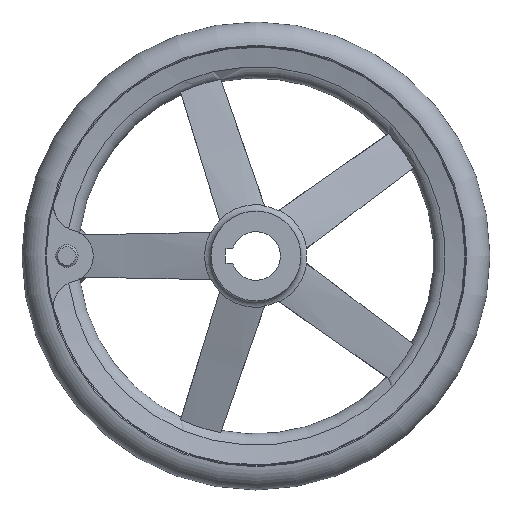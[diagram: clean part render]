
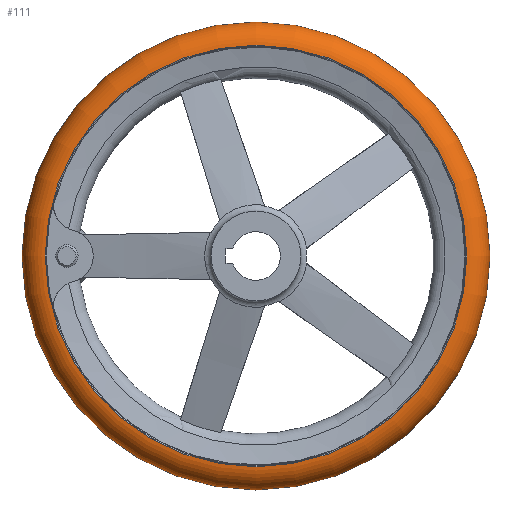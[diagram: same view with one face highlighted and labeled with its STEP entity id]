
A CAD part, left-side view. The second image highlights one B-rep face of the part: STEP entity #111.
In plain terms, the highlighted toroidal (fillet/blend) face has major radius 111.988 mm and minor radius 13.012 mm.
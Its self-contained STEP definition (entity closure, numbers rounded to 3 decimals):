
#111 = ADVANCED_FACE( '', ( #231, #232, #233 ), #234, .T. );
#231 = FACE_BOUND( '', #381, .T. );
#232 = FACE_OUTER_BOUND( '', #382, .T. );
#233 = FACE_OUTER_BOUND( '', #383, .T. );
#234 = TOROIDAL_SURFACE( '', #384, 111.988, 13.012 );
#381 = VERTEX_LOOP( '', #757 );
#382 = EDGE_LOOP( '', ( #758 ) );
#383 = EDGE_LOOP( '', ( #759 ) );
#384 = AXIS2_PLACEMENT_3D( '', #760, #761, #762 );
#757 = VERTEX_POINT( '', #1083 );
#758 = ORIENTED_EDGE( '', *, *, #1082, .T. );
#759 = ORIENTED_EDGE( '', *, *, #1076, .F. );
#760 = CARTESIAN_POINT( '', ( 37., 0., 0. ) );
#761 = DIRECTION( '', ( 1., 0., 0. ) );
#762 = DIRECTION( '', ( 0., 1., 0. ) );
#1076 = EDGE_CURVE( '', #1323, #1323, #1324, .T. );
#1082 = EDGE_CURVE( '', #1333, #1333, #1334, .T. );
#1083 = CARTESIAN_POINT( '', ( 37., 125., 0. ) );
#1323 = VERTEX_POINT( '', #2101 );
#1324 = CIRCLE( '', #2102, 112.542 );
#1333 = VERTEX_POINT( '', #2130 );
#1334 = CIRCLE( '', #2131, 112.542 );
#2101 = CARTESIAN_POINT( '', ( 50., 112.542, 0. ) );
#2102 = AXIS2_PLACEMENT_3D( '', #2426, #2427, #2428 );
#2130 = CARTESIAN_POINT( '', ( 24., 112.542, 0. ) );
#2131 = AXIS2_PLACEMENT_3D( '', #2441, #2442, #2443 );
#2426 = CARTESIAN_POINT( '', ( 50., 0., 0. ) );
#2427 = DIRECTION( '', ( 1., 0., 0. ) );
#2428 = DIRECTION( '', ( 0., 1., 0. ) );
#2441 = CARTESIAN_POINT( '', ( 24., 0., 0. ) );
#2442 = DIRECTION( '', ( 1., 0., 0. ) );
#2443 = DIRECTION( '', ( 0., 1., 0. ) );
